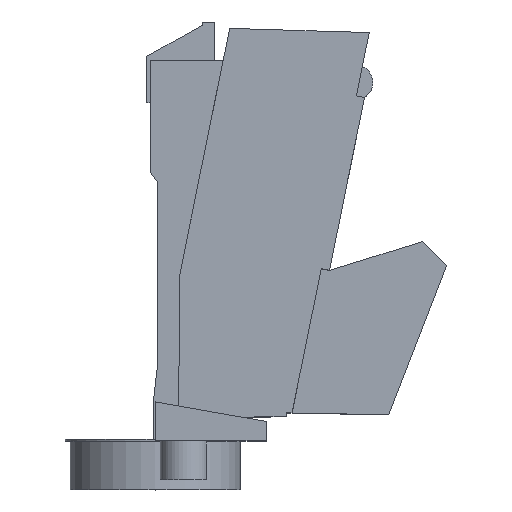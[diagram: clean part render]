
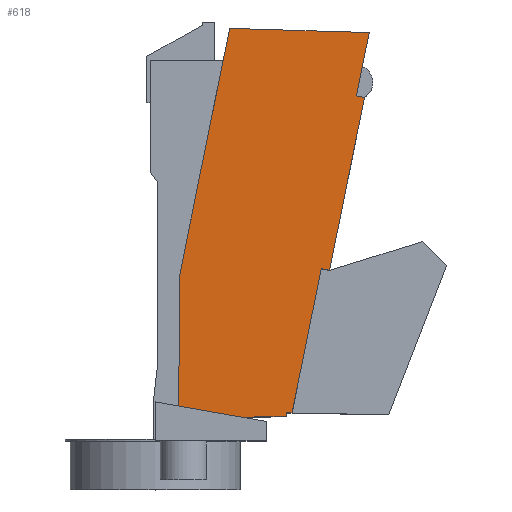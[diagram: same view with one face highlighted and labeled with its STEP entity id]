
A CAD part, top view. The second image highlights one B-rep face of the part: STEP entity #618.
In plain terms, the highlighted planar face has unit normal (0, 0, 1).
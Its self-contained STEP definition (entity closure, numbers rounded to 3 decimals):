
#28 = DIRECTION ( 'NONE',  ( -0.009, -1., 0. ) ) ;
#36 = CARTESIAN_POINT ( 'NONE',  ( 46.791, 32.389, 12.1 ) ) ;
#38 = CARTESIAN_POINT ( 'NONE',  ( 23.8, -33.58, 12.1 ) ) ;
#49 = LINE ( 'NONE', #1748, #1573 ) ;
#80 = CARTESIAN_POINT ( 'NONE',  ( 41.255, -3.443, 12.1 ) ) ;
#110 = CARTESIAN_POINT ( 'NONE',  ( 10.52, -4.22, 12.1 ) ) ;
#129 = DIRECTION ( 'NONE',  ( 0.98, -0.199, 0. ) ) ;
#130 = VECTOR ( 'NONE', #1739, 1000. ) ;
#131 = CARTESIAN_POINT ( 'NONE',  ( 23.835, -36.58, 12.1 ) ) ;
#153 = VECTOR ( 'NONE', #1227, 1000. ) ;
#157 = FACE_OUTER_BOUND ( 'NONE', #1166, .T. ) ;
#167 = CARTESIAN_POINT ( 'NONE',  ( 10.961, 39.659, 12.1 ) ) ;
#175 = LINE ( 'NONE', #1692, #890 ) ;
#176 = CIRCLE ( 'NONE', #1415, 3. ) ;
#221 = ORIENTED_EDGE ( 'NONE', *, *, #1771, .F. ) ;
#226 = DIRECTION ( 'NONE',  ( 1., -0.017, 0. ) ) ;
#231 = VECTOR ( 'NONE', #574, 1000. ) ;
#234 = DIRECTION ( 'NONE',  ( 1., 0.012, 0. ) ) ;
#254 = CARTESIAN_POINT ( 'NONE',  ( 3.759, 4.165, 12.1 ) ) ;
#277 = ORIENTED_EDGE ( 'NONE', *, *, #1324, .T. ) ;
#308 = CARTESIAN_POINT ( 'NONE',  ( 49.433, 45.41, 12.1 ) ) ;
#331 = EDGE_CURVE ( 'NONE', #1386, #1926, #1719, .T. ) ;
#368 = EDGE_CURVE ( 'NONE', #1162, #866, #1123, .T. ) ;
#391 = VECTOR ( 'NONE', #28, 1000. ) ;
#396 = ORIENTED_EDGE ( 'NONE', *, *, #1046, .F. ) ;
#432 = LINE ( 'NONE', #254, #1045 ) ;
#443 = CARTESIAN_POINT ( 'NONE',  ( 48.023, 38.462, 12.1 ) ) ;
#493 = LINE ( 'NONE', #1874, #391 ) ;
#530 = CARTESIAN_POINT ( 'NONE',  ( 24.324, -33.808, 12.1 ) ) ;
#560 = DIRECTION ( 'NONE',  ( 0., 0., -1. ) ) ;
#574 = DIRECTION ( 'NONE',  ( 0.199, 0.98, 0. ) ) ;
#576 = CARTESIAN_POINT ( 'NONE',  ( 48.457, 32.051, 12.1 ) ) ;
#577 = AXIS2_PLACEMENT_3D ( 'NONE', #131, #615, #1358 ) ;
#588 = VECTOR ( 'NONE', #803, 1000. ) ;
#594 = ORIENTED_EDGE ( 'NONE', *, *, #1837, .T. ) ;
#611 = VECTOR ( 'NONE', #1502, 1000. ) ;
#615 = DIRECTION ( 'NONE',  ( 0., 0., -1. ) ) ;
#618 = ADVANCED_FACE ( 'NONE', ( #157 ), #1840, .F. ) ;
#626 = CARTESIAN_POINT ( 'NONE',  ( 41.255, -3.443, 12.1 ) ) ;
#662 = LINE ( 'NONE', #530, #588 ) ;
#664 = CARTESIAN_POINT ( 'NONE',  ( 48.023, 38.462, 12.1 ) ) ;
#675 = LINE ( 'NONE', #38, #778 ) ;
#697 = VERTEX_POINT ( 'NONE', #36 ) ;
#715 = ORIENTED_EDGE ( 'NONE', *, *, #1965, .F. ) ;
#726 = CARTESIAN_POINT ( 'NONE',  ( 33.577, -32.735, 12.1 ) ) ;
#745 = CARTESIAN_POINT ( 'NONE',  ( 23.302, -33.628, 12.1 ) ) ;
#778 = VECTOR ( 'NONE', #234, 1000. ) ;
#803 = DIRECTION ( 'NONE',  ( -0.985, 0.174, 0. ) ) ;
#812 = CARTESIAN_POINT ( 'NONE',  ( 39.589, -3.105, 12.1 ) ) ;
#825 = VECTOR ( 'NONE', #1414, 1000. ) ;
#866 = VERTEX_POINT ( 'NONE', #110 ) ;
#890 = VECTOR ( 'NONE', #226, 1000. ) ;
#913 = LINE ( 'NONE', #626, #153 ) ;
#918 = CARTESIAN_POINT ( 'NONE',  ( 32.38, -33.48, 12.1 ) ) ;
#1005 = VERTEX_POINT ( 'NONE', #1510 ) ;
#1010 = VERTEX_POINT ( 'NONE', #576 ) ;
#1029 = DIRECTION ( 'NONE',  ( -1., 0., 0. ) ) ;
#1039 = EDGE_CURVE ( 'NONE', #1241, #1898, #1839, .T. ) ;
#1042 = DIRECTION ( 'NONE',  ( 0.98, -0.199, 0. ) ) ;
#1045 = VECTOR ( 'NONE', #1042, 1000. ) ;
#1046 = EDGE_CURVE ( 'NONE', #697, #1010, #1529, .T. ) ;
#1103 = CARTESIAN_POINT ( 'NONE',  ( 23.8, -33.58, 12.1 ) ) ;
#1107 = CARTESIAN_POINT ( 'NONE',  ( 20.765, 46.271, 12.1 ) ) ;
#1121 = ORIENTED_EDGE ( 'NONE', *, *, #1039, .T. ) ;
#1123 = LINE ( 'NONE', #1862, #130 ) ;
#1133 = ORIENTED_EDGE ( 'NONE', *, *, #368, .T. ) ;
#1157 = EDGE_CURVE ( 'NONE', #866, #1005, #493, .T. ) ;
#1162 = VERTEX_POINT ( 'NONE', #1107 ) ;
#1166 = EDGE_LOOP ( 'NONE', ( #715, #1473, #1517, #1121, #1779, #1362, #1661, #221, #396, #277, #594, #1133, #1441 ) ) ;
#1227 = DIRECTION ( 'NONE',  ( -0.199, -0.98, 0. ) ) ;
#1241 = VERTEX_POINT ( 'NONE', #1623 ) ;
#1320 = CARTESIAN_POINT ( 'NONE',  ( 23.835, -36.58, 12.1 ) ) ;
#1324 = EDGE_CURVE ( 'NONE', #697, #1341, #1326, .T. ) ;
#1326 = LINE ( 'NONE', #443, #231 ) ;
#1341 = VERTEX_POINT ( 'NONE', #308 ) ;
#1358 = DIRECTION ( 'NONE',  ( -1., 0., 0. ) ) ;
#1362 = ORIENTED_EDGE ( 'NONE', *, *, #331, .T. ) ;
#1386 = VERTEX_POINT ( 'NONE', #726 ) ;
#1395 = VERTEX_POINT ( 'NONE', #745 ) ;
#1402 = CARTESIAN_POINT ( 'NONE',  ( 32.38, -32.714, 12.1 ) ) ;
#1414 = DIRECTION ( 'NONE',  ( 0.199, 0.98, 0. ) ) ;
#1415 = AXIS2_PLACEMENT_3D ( 'NONE', #1320, #560, #1029 ) ;
#1441 = ORIENTED_EDGE ( 'NONE', *, *, #1157, .T. ) ;
#1461 = VERTEX_POINT ( 'NONE', #80 ) ;
#1473 = ORIENTED_EDGE ( 'NONE', *, *, #1683, .T. ) ;
#1486 = EDGE_CURVE ( 'NONE', #1898, #1386, #175, .T. ) ;
#1502 = DIRECTION ( 'NONE',  ( 0., 1., 0. ) ) ;
#1510 = CARTESIAN_POINT ( 'NONE',  ( 10.279, -31.331, 12.1 ) ) ;
#1517 = ORIENTED_EDGE ( 'NONE', *, *, #1918, .T. ) ;
#1529 = LINE ( 'NONE', #167, #1697 ) ;
#1573 = VECTOR ( 'NONE', #1574, 1000. ) ;
#1574 = DIRECTION ( 'NONE',  ( -1., 0.03, 0. ) ) ;
#1623 = CARTESIAN_POINT ( 'NONE',  ( 32.38, -33.48, 12.1 ) ) ;
#1624 = EDGE_CURVE ( 'NONE', #1926, #1461, #432, .T. ) ;
#1661 = ORIENTED_EDGE ( 'NONE', *, *, #1624, .T. ) ;
#1683 = EDGE_CURVE ( 'NONE', #1395, #1867, #176, .T. ) ;
#1692 = CARTESIAN_POINT ( 'NONE',  ( 32.38, -32.714, 12.1 ) ) ;
#1697 = VECTOR ( 'NONE', #129, 1000. ) ;
#1719 = LINE ( 'NONE', #664, #825 ) ;
#1739 = DIRECTION ( 'NONE',  ( -0.199, -0.98, 0. ) ) ;
#1748 = CARTESIAN_POINT ( 'NONE',  ( 49.433, 45.41, 12.1 ) ) ;
#1771 = EDGE_CURVE ( 'NONE', #1010, #1461, #913, .T. ) ;
#1779 = ORIENTED_EDGE ( 'NONE', *, *, #1486, .T. ) ;
#1837 = EDGE_CURVE ( 'NONE', #1341, #1162, #49, .T. ) ;
#1839 = LINE ( 'NONE', #918, #611 ) ;
#1840 = PLANE ( 'NONE',  #577 ) ;
#1862 = CARTESIAN_POINT ( 'NONE',  ( 20.765, 46.271, 12.1 ) ) ;
#1867 = VERTEX_POINT ( 'NONE', #1103 ) ;
#1874 = CARTESIAN_POINT ( 'NONE',  ( 10.52, -4.22, 12.1 ) ) ;
#1898 = VERTEX_POINT ( 'NONE', #1402 ) ;
#1918 = EDGE_CURVE ( 'NONE', #1867, #1241, #675, .T. ) ;
#1926 = VERTEX_POINT ( 'NONE', #812 ) ;
#1965 = EDGE_CURVE ( 'NONE', #1395, #1005, #662, .T. ) ;
